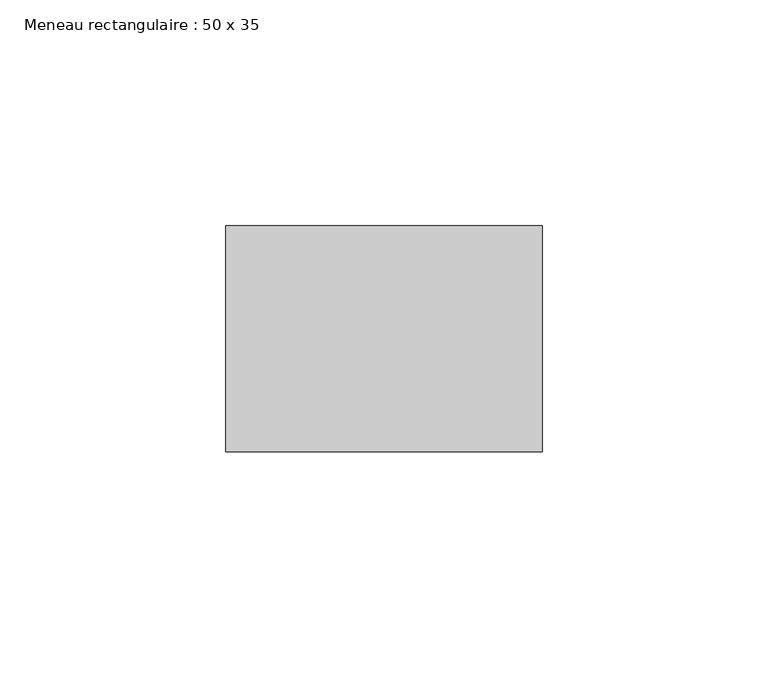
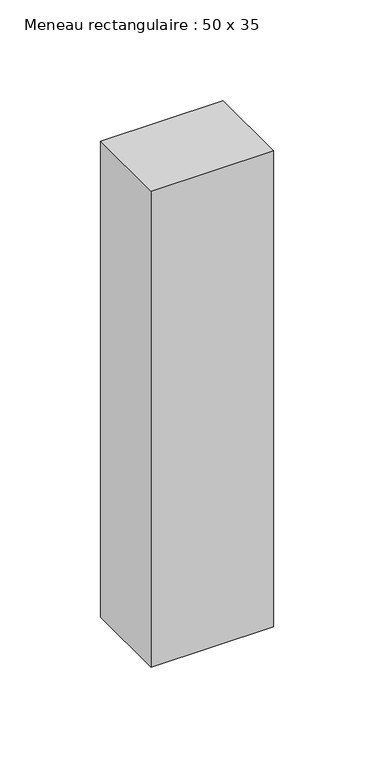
"""IFC4 building model written with IfcOpenShell, lengths in millimetres: member geometry, Meneau rectangulaire : 50 x 35."""

import ifcopenshell
import ifcopenshell.guid

model = None  # the IFC model being written
_history = None  # IfcOwnerHistory: only IFC2X3 demands one
_inside = {}  # id of a spatial element -> (the spatial element, [elements in it])
_under = {}  # id of a project, library or spatial element -> (it, [spatial elements below it])
_declared = {}  # id of a project -> (the project, [libraries it declares])
_typed = {}  # id of a type object -> (the type object, [elements of that type])
_made_of = {}  # id of a material, layer set ... -> (it, [elements and type objects made of it])


def new_model(schema):
    """Start an empty IFC model of exactly this schema.

    Asked for "IFC4X3", IfcOpenShell would pick the latest addendum, in which some entities
    have other attributes; the version numbers below select the first issue.
    IFC2X3 requires an IfcOwnerHistory on every rooted entity: one is made here for all.
    """
    global model, _history
    if schema == "IFC4X3":
        model = ifcopenshell.file(schema_version=(4, 3, 0, 0))
    else:
        model = ifcopenshell.file(schema=schema)
    _inside.clear()
    _under.clear()
    _declared.clear()
    _typed.clear()
    _made_of.clear()
    _history = None
    if model.schema == "IFC2X3":
        org = make("IfcOrganization", Name="unknown")
        user = make(
            "IfcPersonAndOrganization",
            ThePerson=make("IfcPerson", FamilyName="unknown"),
            TheOrganization=org,
        )
        app = make(
            "IfcApplication",
            ApplicationDeveloper=org,
            Version="unknown",
            ApplicationFullName="unknown",
            ApplicationIdentifier="unknown",
        )
        _history = make(
            "IfcOwnerHistory",
            OwningUser=user,
            OwningApplication=app,
            ChangeAction="ADDED",
            CreationDate=0,
        )
    return model


def make(cls, **values):
    """One entity of the class cls with the attributes given. An attribute that is None is left unset."""
    return model.create_entity(
        cls, **{name: value for name, value in values.items() if value is not None}
    )


def rooted(cls, **values):
    """An entity with a GlobalId (a new one), such as an element, a storey or a relation."""
    return make(cls, GlobalId=ifcopenshell.guid.new(), OwnerHistory=_history, **values)


def si_unit(unit_type, name, prefix=None):
    """IfcSIUnit, for example si_unit("LENGTHUNIT", "METRE", prefix="MILLI")."""
    return make("IfcSIUnit", UnitType=unit_type, Prefix=prefix, Name=name)


def assignment(units):
    """IfcUnitAssignment: the units of a project."""
    return None if units is None else make("IfcUnitAssignment", Units=units)


def point(xyz):
    """IfcCartesianPoint."""
    return None if xyz is None else make("IfcCartesianPoint", Coordinates=xyz)


def direction(xyz):
    """IfcDirection."""
    return None if xyz is None else make("IfcDirection", DirectionRatios=xyz)


def frame(location, z_axis=None, x_axis=None):
    """IfcAxis2Placement3D, a coordinate frame: its origin and axes. An axis left out is left unset."""
    return make(
        "IfcAxis2Placement3D",
        Location=point(location),
        Axis=direction(z_axis),
        RefDirection=direction(x_axis),
    )


def origin():
    """The frame at (0, 0, 0) with its axes left unset."""
    return frame((0.0, 0.0, 0.0))


def place(relative_to, where):
    """IfcLocalPlacement: puts the frame where relative to a parent placement (None: the world)."""
    return make(
        "IfcLocalPlacement", PlacementRelTo=relative_to, RelativePlacement=where
    )


def context(
    kind, dimensions, precision=None, world=None, true_north=None, identifier=None
):
    """IfcGeometricRepresentationContext, for example the 3D "Model" context."""
    return make(
        "IfcGeometricRepresentationContext",
        ContextIdentifier=identifier,
        ContextType=kind,
        CoordinateSpaceDimension=dimensions,
        Precision=precision,
        WorldCoordinateSystem=world,
        TrueNorth=true_north,
    )


def project(units=None, contexts=None):
    """IfcProject with its units and contexts."""
    return rooted(
        "IfcProject",
        Name="project",
        RepresentationContexts=contexts,
        UnitsInContext=assignment(units),
    )


def spatial(cls, under=None, at=None, **own):
    """A site, building, storey or space (cls), placed at a placement, below another one or the project."""
    s = rooted(cls, ObjectPlacement=at, **own)
    if under is not None:
        _under.setdefault(under.id(), (under, []))[1].append(s)
    return s


def polyline(points):
    """IfcPolyline through the points."""
    return make("IfcPolyline", Points=[point(p) for p in points])


def outline(outer, holes=None, kind="AREA"):
    """IfcArbitraryClosedProfileDef: a profile drawn as a closed curve; with holes, ...WithVoids."""
    if holes is None:
        return make("IfcArbitraryClosedProfileDef", ProfileType=kind, OuterCurve=outer)
    return make(
        "IfcArbitraryProfileDefWithVoids",
        ProfileType=kind,
        OuterCurve=outer,
        InnerCurves=holes,
    )


def extrude(swept, where, along, depth):
    """IfcExtrudedAreaSolid: the profile swept, set in the frame where, extruded along a direction by depth."""
    return make(
        "IfcExtrudedAreaSolid",
        SweptArea=swept,
        Position=where,
        ExtrudedDirection=direction(along),
        Depth=depth,
    )


def shape(context_of_items, identifier, shape_type, items):
    """IfcShapeRepresentation: the items that make up one representation, for example the "Body"."""
    return make(
        "IfcShapeRepresentation",
        ContextOfItems=context_of_items,
        RepresentationIdentifier=identifier,
        RepresentationType=shape_type,
        Items=items,
    )


def source(mapping_origin, context_of_items, identifier, shape_type, items):
    """IfcRepresentationMap: a shape defined once, which mapped items show again and again."""
    return make(
        "IfcRepresentationMap",
        MappingOrigin=mapping_origin,
        MappedRepresentation=shape(context_of_items, identifier, shape_type, items),
    )


def transform(
    local_origin,
    x_axis=None,
    y_axis=None,
    z_axis=None,
    scale=None,
    scale2=None,
    scale3=None,
    uniform=True,
):
    """IfcCartesianTransformationOperator3D, or its non-uniform kind. x_axis, y_axis, z_axis: its Axis1, 2, 3."""
    if uniform:
        return make(
            "IfcCartesianTransformationOperator3D",
            Axis1=direction(x_axis),
            Axis2=direction(y_axis),
            LocalOrigin=point(local_origin),
            Scale=scale,
            Axis3=direction(z_axis),
        )
    return make(
        "IfcCartesianTransformationOperator3DnonUniform",
        Axis1=direction(x_axis),
        Axis2=direction(y_axis),
        LocalOrigin=point(local_origin),
        Scale=scale,
        Axis3=direction(z_axis),
        Scale2=scale2,
        Scale3=scale3,
    )


def mapped(mapping_source, mapping_target):
    """IfcMappedItem: shows the shape of a source again, moved by a transform."""
    return make(
        "IfcMappedItem", MappingSource=mapping_source, MappingTarget=mapping_target
    )


def made_of(thing, what):
    """Note that an element or type object is made of a material, layer set ...; save() writes the relation."""
    if what is not None:
        _made_of.setdefault(what.id(), (what, []))[1].append(thing)
    return thing


def element(
    cls,
    number,
    at=None,
    inside=None,
    cuts=None,
    type_object=None,
    material=None,
    context=None,
    identifier="Body",
    shape_type=None,
    held_by="IfcProductDefinitionShape",
    body=None,
    shapes=None,
    **own,
):
    """One element of the class cls, such as IfcWall. Its Tag is "e" and its number.

    at: its placement. inside: the storey or other place that contains it. cuts: it is an
    opening in that element (IfcRelVoidsElement). A single representation is given by context,
    identifier, shape_type and body (its items); several are given by shapes. held_by: the class
    of the entity that holds the representations. save() writes the other relations.
    """
    e = rooted(cls, Tag="e%d" % number, ObjectPlacement=at, **own)
    if body is not None:
        shapes = [shape(context, identifier, shape_type, body)]
    if shapes is not None:
        e.Representation = make(held_by, Representations=shapes)
    if inside is not None:
        _inside.setdefault(inside.id(), (inside, []))[1].append(e)
    if cuts is not None:
        rooted(
            "IfcRelVoidsElement", RelatingBuildingElement=cuts, RelatedOpeningElement=e
        )
    if type_object is not None:
        _typed.setdefault(type_object.id(), (type_object, []))[1].append(e)
    return made_of(e, material)


def aggregate(whole, parts):
    """IfcRelAggregates: a whole, such as a stair, and the parts it consists of."""
    return rooted("IfcRelAggregates", RelatingObject=whole, RelatedObjects=parts)


def save(model, path):
    """Write the relations noted so far, then the file.

    IfcRelAggregates (storeys below a building ...), IfcRelContainedInSpatialStructure (elements
    in a storey), IfcRelDefinesByType, IfcRelAssociatesMaterial and IfcRelDeclares: one each for
    every whole, place, type object, material and project.
    """
    for whole, parts in _under.values():
        aggregate(whole, parts)
    for where, things in _inside.values():
        rooted(
            "IfcRelContainedInSpatialStructure",
            RelatedElements=things,
            RelatingStructure=where,
        )
    for kind, things in _typed.values():
        rooted("IfcRelDefinesByType", RelatedObjects=things, RelatingType=kind)
    for what, things in _made_of.values():
        rooted("IfcRelAssociatesMaterial", RelatedObjects=things, RelatingMaterial=what)
    for by, libraries in _declared.values():
        rooted("IfcRelDeclares", RelatingContext=by, RelatedDefinitions=libraries)
    model.write(path)


def meneau_rectangulaire_50_x_35_062d2418(model_context):
    return source(origin(), model_context, "Body", "SweptSolid", [
        extrude(outline(polyline([(0.0, 0.0), (0.0, -50.0), (-70.0, -50.0), (-70.0, 0.0), (0.0, 0.0)])), frame((0.0, 0.0, -288.0), z_axis=(0.0, 0.0, 1.0), x_axis=(1.0, 0.0, 0.0)), (0.0, 0.0, 1.0), 288.0),
    ])


if __name__ == "__main__":
    model = new_model("IFC4")
    model_context = context("Model", 3, world=origin())
    ifc_project = project(units=[si_unit("LENGTHUNIT", "METRE", prefix="MILLI")], contexts=[model_context])
    site = spatial("IfcSite", under=ifc_project)
    building = spatial("IfcBuilding", under=site)
    placement = place(None, origin())
    meneau_rectangulaire_50_x_35_shape = meneau_rectangulaire_50_x_35_062d2418(model_context)
    element("IfcMember", 1, ObjectType="Meneau rectangulaire : 50 x 35", at=placement, inside=building, context=model_context, shape_type="MappedRepresentation", body=[
        mapped(meneau_rectangulaire_50_x_35_shape, transform((0.0, 0.0, 0.0), x_axis=(1.0, 0.0, 0.0), y_axis=(0.0, 1.0, 0.0), z_axis=(0.0, 0.0, 1.0))),
    ])
    save(model, "model.ifc")
